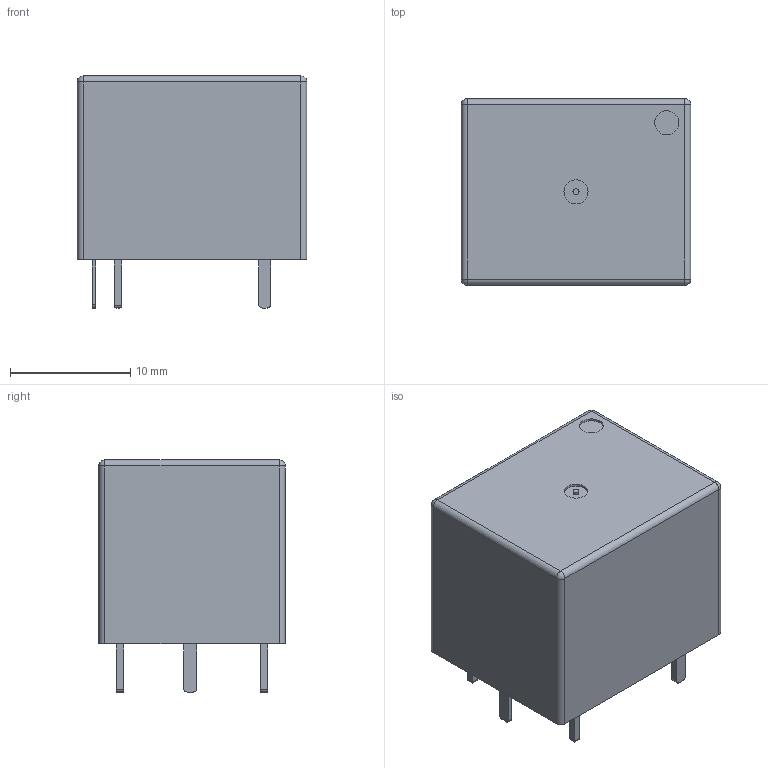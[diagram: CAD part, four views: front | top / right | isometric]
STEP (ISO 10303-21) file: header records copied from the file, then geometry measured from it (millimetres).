
FILE_DESCRIPTION (( 'STEP AP214' ), '1' );
FILE_NAME ('RELAY-TH_SRD-03VDC-SL-C.step', '2022-07-09T14:10:34', ( '' ), ( '' ), 'SwSTEP 2.0', 'SolidWorks 2020', '' );
FILE_SCHEMA (( 'AUTOMOTIVE_DESIGN' ));
Length unit declared in the file: millimetre
Products named in the file (1): RELAY-TH_SRD-03VDC-SL-C
Bounding box: 19.1 x 15.51 x 19.3 mm (x, y, z)
Volume: 4530.4 mm3; surface area: 1680.8 mm2
Topology: 1 solids, 1 shells, 349 faces, 923 edges, 606 vertices
Faces by surface type: plane 205, bspline 112, cylinder 28, sphere 4
Entity records: 15738 total; most frequent: CARTESIAN_POINT 4003, ORIENTED_EDGE 1838, DIRECTION 1199, EDGE_CURVE 919, VECTOR 643, LINE 643, VERTEX_POINT 606, EDGE_LOOP 383
